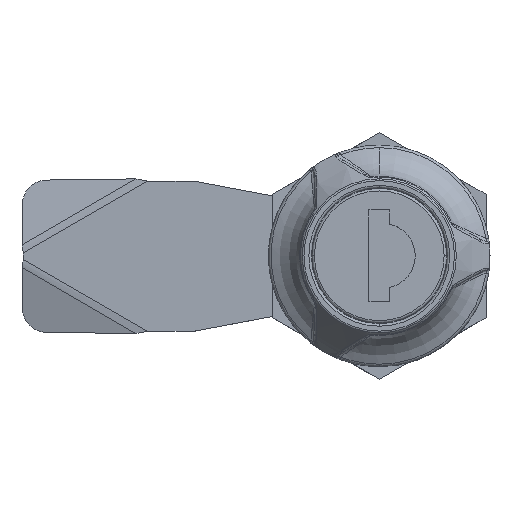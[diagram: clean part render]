
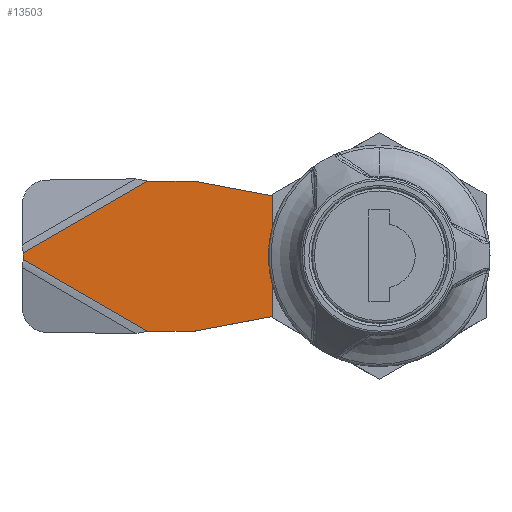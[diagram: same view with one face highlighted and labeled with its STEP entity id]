
A CAD part, top view. The second image highlights one B-rep face of the part: STEP entity #13503.
In plain terms, the highlighted planar face has unit normal (0, 0, 1).
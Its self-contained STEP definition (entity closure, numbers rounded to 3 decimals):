
#41 = CARTESIAN_POINT ( 'NONE',  ( 23.5, -9.5, 3. ) ) ;
#118 = ORIENTED_EDGE ( 'NONE', *, *, #7235, .T. ) ;
#128 = DIRECTION ( 'NONE',  ( -1., 0., 0. ) ) ;
#143 = CARTESIAN_POINT ( 'NONE',  ( 10., -4.05, 3. ) ) ;
#160 = VERTEX_POINT ( 'NONE', #10045 ) ;
#450 = EDGE_CURVE ( 'NONE', #4610, #8608, #9150, .T. ) ;
#592 = AXIS2_PLACEMENT_3D ( 'NONE', #5520, #12958, #6586 ) ;
#596 = CIRCLE ( 'NONE', #9885, 2.5 ) ;
#627 = ORIENTED_EDGE ( 'NONE', *, *, #12498, .T. ) ;
#646 = ORIENTED_EDGE ( 'NONE', *, *, #9054, .T. ) ;
#865 = ORIENTED_EDGE ( 'NONE', *, *, #7945, .T. ) ;
#923 = PLANE ( 'NONE',  #2880 ) ;
#974 = DIRECTION ( 'NONE',  ( 0., 0., -1. ) ) ;
#1116 = EDGE_LOOP ( 'NONE', ( #9006, #7179, #118, #865, #12149, #627, #1770, #5221, #6229, #8874, #10215, #12386, #13046 ) ) ;
#1245 = CARTESIAN_POINT ( 'NONE',  ( 9.593, 7.033, 3. ) ) ;
#1277 = DIRECTION ( 'NONE',  ( 0., 0., -1. ) ) ;
#1289 = VECTOR ( 'NONE', #4233, 1000. ) ;
#1347 = DIRECTION ( 'NONE',  ( -1., 0., 0. ) ) ;
#1493 = LINE ( 'NONE', #1954, #6762 ) ;
#1550 = DIRECTION ( 'NONE',  ( -1., 0., 0. ) ) ;
#1770 = ORIENTED_EDGE ( 'NONE', *, *, #13656, .T. ) ;
#1954 = CARTESIAN_POINT ( 'NONE',  ( 45., 6.5, 3. ) ) ;
#2285 = ORIENTED_EDGE ( 'NONE', *, *, #450, .T. ) ;
#2303 = EDGE_CURVE ( 'NONE', #7378, #7809, #7954, .T. ) ;
#2457 = LINE ( 'NONE', #12796, #4926 ) ;
#2650 = VERTEX_POINT ( 'NONE', #7659 ) ;
#2687 = LINE ( 'NONE', #13156, #8005 ) ;
#2701 = EDGE_CURVE ( 'NONE', #7071, #5983, #8935, .T. ) ;
#2799 = LINE ( 'NONE', #9045, #8105 ) ;
#2880 = AXIS2_PLACEMENT_3D ( 'NONE', #5107, #974, #8362 ) ;
#2903 = VERTEX_POINT ( 'NONE', #41 ) ;
#2912 = EDGE_CURVE ( 'NONE', #8175, #2903, #2457, .T. ) ;
#2958 = VECTOR ( 'NONE', #7562, 1000. ) ;
#3033 = LINE ( 'NONE', #1245, #5510 ) ;
#3576 = EDGE_CURVE ( 'NONE', #9695, #7378, #3939, .T. ) ;
#3602 = ORIENTED_EDGE ( 'NONE', *, *, #10650, .T. ) ;
#3911 = LINE ( 'NONE', #12975, #12384 ) ;
#3939 = CIRCLE ( 'NONE', #10960, 8.5 ) ;
#4233 = DIRECTION ( 'NONE',  ( -0.866, 0.5, 0. ) ) ;
#4259 = EDGE_LOOP ( 'NONE', ( #646, #2285, #3602, #4749 ) ) ;
#4610 = VERTEX_POINT ( 'NONE', #5784 ) ;
#4680 = CARTESIAN_POINT ( 'NONE',  ( 4.05, -9.5, 3. ) ) ;
#4681 = EDGE_CURVE ( 'NONE', #2650, #9574, #2799, .T. ) ;
#4722 = VERTEX_POINT ( 'NONE', #10191 ) ;
#4749 = ORIENTED_EDGE ( 'NONE', *, *, #4681, .T. ) ;
#4817 = EDGE_CURVE ( 'NONE', #7071, #4722, #1493, .T. ) ;
#4926 = VECTOR ( 'NONE', #8196, 1000. ) ;
#5107 = CARTESIAN_POINT ( 'NONE',  ( 10., -9.5, 3. ) ) ;
#5221 = ORIENTED_EDGE ( 'NONE', *, *, #6455, .T. ) ;
#5510 = VECTOR ( 'NONE', #8731, 1000. ) ;
#5520 = CARTESIAN_POINT ( 'NONE',  ( 0., 0., 3. ) ) ;
#5557 = CARTESIAN_POINT ( 'NONE',  ( 10.463, 7.043, 3. ) ) ;
#5724 = DIRECTION ( 'NONE',  ( 1., 0., 0. ) ) ;
#5746 = CARTESIAN_POINT ( 'NONE',  ( 1.383, -8.387, 3. ) ) ;
#5753 = CIRCLE ( 'NONE', #592, 8.5 ) ;
#5784 = CARTESIAN_POINT ( 'NONE',  ( 4.05, -4.05, 3. ) ) ;
#5983 = VERTEX_POINT ( 'NONE', #7634 ) ;
#6229 = ORIENTED_EDGE ( 'NONE', *, *, #3576, .T. ) ;
#6242 = LINE ( 'NONE', #10576, #1289 ) ;
#6442 = DIRECTION ( 'NONE',  ( 0., 0., -1. ) ) ;
#6455 = EDGE_CURVE ( 'NONE', #8982, #9695, #5753, .T. ) ;
#6586 = DIRECTION ( 'NONE',  ( 1., 0., 0. ) ) ;
#6762 = VECTOR ( 'NONE', #12478, 1000. ) ;
#7071 = VERTEX_POINT ( 'NONE', #13429 ) ;
#7088 = CARTESIAN_POINT ( 'NONE',  ( 14.824, -17.855, 3. ) ) ;
#7174 = CARTESIAN_POINT ( 'NONE',  ( -4.05, -9.5, 3. ) ) ;
#7179 = ORIENTED_EDGE ( 'NONE', *, *, #4817, .T. ) ;
#7235 = EDGE_CURVE ( 'NONE', #4722, #160, #6242, .T. ) ;
#7378 = VERTEX_POINT ( 'NONE', #5746 ) ;
#7515 = FACE_OUTER_BOUND ( 'NONE', #1116, .T. ) ;
#7562 = DIRECTION ( 'NONE',  ( -0.866, -0.5, 0. ) ) ;
#7609 = CARTESIAN_POINT ( 'NONE',  ( 10., 9.5, 3. ) ) ;
#7634 = CARTESIAN_POINT ( 'NONE',  ( 29.295, -9.5, 3. ) ) ;
#7659 = CARTESIAN_POINT ( 'NONE',  ( -4.05, 4.05, 3. ) ) ;
#7732 = DIRECTION ( 'NONE',  ( 1., 0., 0. ) ) ;
#7771 = DIRECTION ( 'NONE',  ( 0., 0., 1. ) ) ;
#7809 = VERTEX_POINT ( 'NONE', #11853 ) ;
#7819 = CARTESIAN_POINT ( 'NONE',  ( 0., 0., 3. ) ) ;
#7945 = EDGE_CURVE ( 'NONE', #160, #9608, #3911, .T. ) ;
#7954 = LINE ( 'NONE', #9645, #13268 ) ;
#7993 = CARTESIAN_POINT ( 'NONE',  ( 10.463, 7.043, 3. ) ) ;
#8005 = VECTOR ( 'NONE', #5724, 1000. ) ;
#8105 = VECTOR ( 'NONE', #9087, 1000. ) ;
#8175 = VERTEX_POINT ( 'NONE', #13580 ) ;
#8195 = CARTESIAN_POINT ( 'NONE',  ( -8.5, 0., 3. ) ) ;
#8196 = DIRECTION ( 'NONE',  ( 0.983, -0.185, 0. ) ) ;
#8362 = DIRECTION ( 'NONE',  ( -1., 0., 0. ) ) ;
#8608 = VERTEX_POINT ( 'NONE', #12267 ) ;
#8680 = DIRECTION ( 'NONE',  ( 1., 0., 0. ) ) ;
#8731 = DIRECTION ( 'NONE',  ( -0.987, 0.163, 0. ) ) ;
#8874 = ORIENTED_EDGE ( 'NONE', *, *, #2303, .T. ) ;
#8935 = LINE ( 'NONE', #7088, #2958 ) ;
#8982 = VERTEX_POINT ( 'NONE', #12033 ) ;
#9006 = ORIENTED_EDGE ( 'NONE', *, *, #2701, .F. ) ;
#9045 = CARTESIAN_POINT ( 'NONE',  ( 10., 4.05, 3. ) ) ;
#9054 = EDGE_CURVE ( 'NONE', #9574, #4610, #10858, .T. ) ;
#9069 = DIRECTION ( 'NONE',  ( -0.983, -0.185, 0. ) ) ;
#9087 = DIRECTION ( 'NONE',  ( 1., 0., 0. ) ) ;
#9150 = LINE ( 'NONE', #143, #11634 ) ;
#9334 = VECTOR ( 'NONE', #9069, 1000. ) ;
#9415 = VERTEX_POINT ( 'NONE', #5557 ) ;
#9574 = VERTEX_POINT ( 'NONE', #12302 ) ;
#9608 = VERTEX_POINT ( 'NONE', #13411 ) ;
#9628 = DIRECTION ( 'NONE',  ( 0.987, 0.163, 0. ) ) ;
#9645 = CARTESIAN_POINT ( 'NONE',  ( 9.593, -7.033, 3. ) ) ;
#9695 = VERTEX_POINT ( 'NONE', #8195 ) ;
#9885 = AXIS2_PLACEMENT_3D ( 'NONE', #12813, #6442, #128 ) ;
#10016 = EDGE_CURVE ( 'NONE', #2903, #5983, #2687, .T. ) ;
#10045 = CARTESIAN_POINT ( 'NONE',  ( 29.295, 9.5, 3. ) ) ;
#10191 = CARTESIAN_POINT ( 'NONE',  ( 45., 0.433, 3. ) ) ;
#10215 = ORIENTED_EDGE ( 'NONE', *, *, #12430, .T. ) ;
#10381 = DIRECTION ( 'NONE',  ( 0., 1., 0. ) ) ;
#10553 = CARTESIAN_POINT ( 'NONE',  ( 9.593, 7.033, 3. ) ) ;
#10576 = CARTESIAN_POINT ( 'NONE',  ( 23.051, 13.105, 3. ) ) ;
#10650 = EDGE_CURVE ( 'NONE', #8608, #2650, #12982, .T. ) ;
#10767 = VERTEX_POINT ( 'NONE', #10553 ) ;
#10858 = LINE ( 'NONE', #4680, #13016 ) ;
#10859 = CIRCLE ( 'NONE', #13464, 2.5 ) ;
#10960 = AXIS2_PLACEMENT_3D ( 'NONE', #7819, #7771, #7732 ) ;
#11060 = EDGE_CURVE ( 'NONE', #9608, #9415, #11825, .T. ) ;
#11634 = VECTOR ( 'NONE', #1550, 1000. ) ;
#11825 = LINE ( 'NONE', #7993, #9334 ) ;
#11853 = CARTESIAN_POINT ( 'NONE',  ( 9.593, -7.033, 3. ) ) ;
#12033 = CARTESIAN_POINT ( 'NONE',  ( 1.383, 8.387, 3. ) ) ;
#12149 = ORIENTED_EDGE ( 'NONE', *, *, #11060, .T. ) ;
#12267 = CARTESIAN_POINT ( 'NONE',  ( -4.05, -4.05, 3. ) ) ;
#12302 = CARTESIAN_POINT ( 'NONE',  ( 4.05, 4.05, 3. ) ) ;
#12384 = VECTOR ( 'NONE', #1347, 1000. ) ;
#12386 = ORIENTED_EDGE ( 'NONE', *, *, #2912, .T. ) ;
#12430 = EDGE_CURVE ( 'NONE', #7809, #8175, #596, .T. ) ;
#12478 = DIRECTION ( 'NONE',  ( 0., 1., 0. ) ) ;
#12498 = EDGE_CURVE ( 'NONE', #9415, #10767, #10859, .T. ) ;
#12642 = VECTOR ( 'NONE', #10381, 1000. ) ;
#12796 = CARTESIAN_POINT ( 'NONE',  ( 10.463, -7.043, 3. ) ) ;
#12813 = CARTESIAN_POINT ( 'NONE',  ( 10., -9.5, 3. ) ) ;
#12833 = FACE_BOUND ( 'NONE', #4259, .T. ) ;
#12958 = DIRECTION ( 'NONE',  ( 0., 0., 1. ) ) ;
#12975 = CARTESIAN_POINT ( 'NONE',  ( 42., 9.5, 3. ) ) ;
#12982 = LINE ( 'NONE', #7174, #12642 ) ;
#13016 = VECTOR ( 'NONE', #13143, 1000. ) ;
#13046 = ORIENTED_EDGE ( 'NONE', *, *, #10016, .T. ) ;
#13143 = DIRECTION ( 'NONE',  ( 0., -1., 0. ) ) ;
#13156 = CARTESIAN_POINT ( 'NONE',  ( 42., -9.5, 3. ) ) ;
#13268 = VECTOR ( 'NONE', #9628, 1000. ) ;
#13411 = CARTESIAN_POINT ( 'NONE',  ( 23.5, 9.5, 3. ) ) ;
#13429 = CARTESIAN_POINT ( 'NONE',  ( 45., -0.433, 3. ) ) ;
#13464 = AXIS2_PLACEMENT_3D ( 'NONE', #7609, #1277, #8680 ) ;
#13503 = ADVANCED_FACE ( 'NONE', ( #7515, #12833 ), #923, .F. ) ;
#13580 = CARTESIAN_POINT ( 'NONE',  ( 10.463, -7.043, 3. ) ) ;
#13656 = EDGE_CURVE ( 'NONE', #10767, #8982, #3033, .T. ) ;
